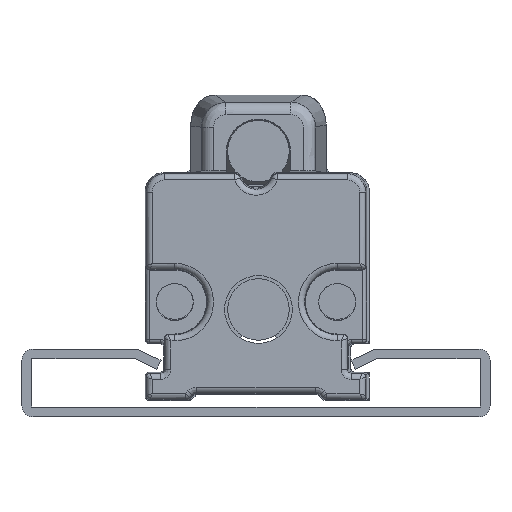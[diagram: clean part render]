
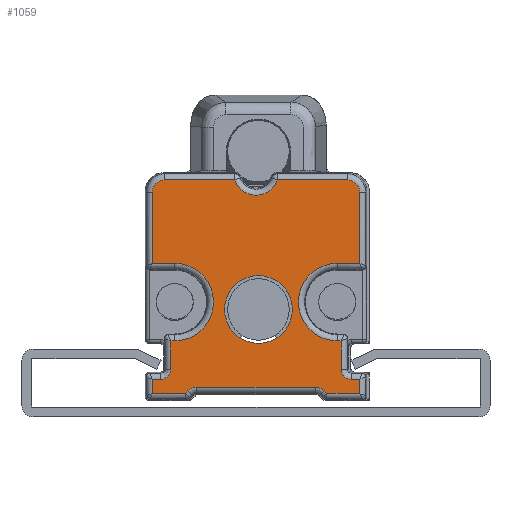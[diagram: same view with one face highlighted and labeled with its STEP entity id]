
A CAD part, front view. The second image highlights one B-rep face of the part: STEP entity #1059.
In plain terms, the highlighted planar face has unit normal (0, -1, 0).
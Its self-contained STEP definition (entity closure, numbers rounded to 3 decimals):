
#1059=ADVANCED_FACE('',(#4343,#4344),#1692,.T.);
#1692=PLANE('',#11957);
#2022=B_SPLINE_CURVE_WITH_KNOTS('',3,(#16871,#16872,#16873,#16874),
 .UNSPECIFIED.,.F.,.F.,(4,4),(0.,1.),.UNSPECIFIED.);
#2023=B_SPLINE_CURVE_WITH_KNOTS('',3,(#16882,#16883,#16884,#16885),
 .UNSPECIFIED.,.F.,.F.,(4,4),(0.,1.),.UNSPECIFIED.);
#2121=ELLIPSE('',#11952,0.8,0.8);
#2122=ELLIPSE('',#11953,1.,1.);
#2123=ELLIPSE('',#11954,1.,1.);
#2124=ELLIPSE('',#11955,0.8,0.8);
#2327=LINE('',#16868,#3390);
#2328=LINE('',#16876,#3391);
#2329=LINE('',#16880,#3392);
#2330=LINE('',#16887,#3393);
#2331=LINE('',#16889,#3394);
#2332=LINE('',#16893,#3395);
#2333=LINE('',#16895,#3396);
#2334=LINE('',#16899,#3397);
#2335=LINE('',#16901,#3398);
#2336=LINE('',#16903,#3399);
#2337=LINE('',#16905,#3400);
#2338=LINE('',#16909,#3401);
#2339=LINE('',#16913,#3402);
#2340=LINE('',#16915,#3403);
#2341=LINE('',#16917,#3404);
#2342=LINE('',#16919,#3405);
#2343=LINE('',#16923,#3406);
#2344=LINE('',#16925,#3407);
#2345=LINE('',#16929,#3408);
#3390=VECTOR('',#13289,1.);
#3391=VECTOR('',#13290,1.);
#3392=VECTOR('',#13293,1.);
#3393=VECTOR('',#13294,1.);
#3394=VECTOR('',#13295,1.);
#3395=VECTOR('',#13298,1.);
#3396=VECTOR('',#13299,1.);
#3397=VECTOR('',#13302,1.);
#3398=VECTOR('',#13303,1.);
#3399=VECTOR('',#13304,1.);
#3400=VECTOR('',#13305,1.);
#3401=VECTOR('',#13308,1.);
#3402=VECTOR('',#13311,1.);
#3403=VECTOR('',#13312,1.);
#3404=VECTOR('',#13313,1.);
#3405=VECTOR('',#13314,1.);
#3406=VECTOR('',#13317,1.);
#3407=VECTOR('',#13318,1.);
#3408=VECTOR('',#13321,1.);
#4343=FACE_BOUND('',#4493,.T.);
#4344=FACE_BOUND('',#4494,.T.);
#4493=EDGE_LOOP('',(#5399));
#4494=EDGE_LOOP('',(#5400,#5401,#5402,#5403,#5404,#5405,#5406,#5407,#5408,
#5409,#5410,#5411,#5412,#5413,#5414,#5415,#5416,#5417,#5418,#5419,#5420,
#5421,#5422,#5423,#5424,#5425,#5426,#5427));
#5399=ORIENTED_EDGE('',*,*,#9914,.F.);
#5400=ORIENTED_EDGE('',*,*,#9915,.T.);
#5401=ORIENTED_EDGE('',*,*,#9916,.T.);
#5402=ORIENTED_EDGE('',*,*,#9917,.T.);
#5403=ORIENTED_EDGE('',*,*,#9918,.T.);
#5404=ORIENTED_EDGE('',*,*,#9919,.T.);
#5405=ORIENTED_EDGE('',*,*,#9920,.T.);
#5406=ORIENTED_EDGE('',*,*,#9921,.T.);
#5407=ORIENTED_EDGE('',*,*,#9922,.T.);
#5408=ORIENTED_EDGE('',*,*,#9923,.T.);
#5409=ORIENTED_EDGE('',*,*,#9924,.T.);
#5410=ORIENTED_EDGE('',*,*,#9925,.T.);
#5411=ORIENTED_EDGE('',*,*,#9926,.T.);
#5412=ORIENTED_EDGE('',*,*,#9927,.T.);
#5413=ORIENTED_EDGE('',*,*,#9928,.T.);
#5414=ORIENTED_EDGE('',*,*,#9929,.T.);
#5415=ORIENTED_EDGE('',*,*,#9930,.T.);
#5416=ORIENTED_EDGE('',*,*,#9931,.T.);
#5417=ORIENTED_EDGE('',*,*,#9932,.T.);
#5418=ORIENTED_EDGE('',*,*,#9933,.T.);
#5419=ORIENTED_EDGE('',*,*,#9934,.T.);
#5420=ORIENTED_EDGE('',*,*,#9935,.T.);
#5421=ORIENTED_EDGE('',*,*,#9936,.T.);
#5422=ORIENTED_EDGE('',*,*,#9937,.T.);
#5423=ORIENTED_EDGE('',*,*,#9938,.T.);
#5424=ORIENTED_EDGE('',*,*,#9939,.T.);
#5425=ORIENTED_EDGE('',*,*,#9940,.T.);
#5426=ORIENTED_EDGE('',*,*,#9941,.T.);
#5427=ORIENTED_EDGE('',*,*,#9942,.T.);
#8769=VERTEX_POINT('',#16867);
#8770=VERTEX_POINT('',#16869);
#8771=VERTEX_POINT('',#16870);
#8772=VERTEX_POINT('',#16875);
#8773=VERTEX_POINT('',#16877);
#8774=VERTEX_POINT('',#16879);
#8775=VERTEX_POINT('',#16881);
#8776=VERTEX_POINT('',#16886);
#8777=VERTEX_POINT('',#16888);
#8778=VERTEX_POINT('',#16890);
#8779=VERTEX_POINT('',#16892);
#8780=VERTEX_POINT('',#16894);
#8781=VERTEX_POINT('',#16896);
#8782=VERTEX_POINT('',#16898);
#8783=VERTEX_POINT('',#16900);
#8784=VERTEX_POINT('',#16902);
#8785=VERTEX_POINT('',#16904);
#8786=VERTEX_POINT('',#16906);
#8787=VERTEX_POINT('',#16908);
#8788=VERTEX_POINT('',#16910);
#8789=VERTEX_POINT('',#16912);
#8790=VERTEX_POINT('',#16914);
#8791=VERTEX_POINT('',#16916);
#8792=VERTEX_POINT('',#16918);
#8793=VERTEX_POINT('',#16920);
#8794=VERTEX_POINT('',#16922);
#8795=VERTEX_POINT('',#16924);
#8796=VERTEX_POINT('',#16926);
#8797=VERTEX_POINT('',#16928);
#9914=EDGE_CURVE('',#8769,#8769,#11469,.T.);
#9915=EDGE_CURVE('',#8770,#8771,#2327,.T.);
#9916=EDGE_CURVE('',#8771,#8772,#2022,.T.);
#9917=EDGE_CURVE('',#8772,#8773,#2328,.T.);
#9918=EDGE_CURVE('',#8773,#8774,#11470,.T.);
#9919=EDGE_CURVE('',#8774,#8775,#2329,.T.);
#9920=EDGE_CURVE('',#8775,#8776,#2023,.T.);
#9921=EDGE_CURVE('',#8776,#8777,#2330,.T.);
#9922=EDGE_CURVE('',#8777,#8778,#2331,.T.);
#9923=EDGE_CURVE('',#8778,#8779,#11471,.T.);
#9924=EDGE_CURVE('',#8779,#8780,#2332,.T.);
#9925=EDGE_CURVE('',#8780,#8781,#2333,.T.);
#9926=EDGE_CURVE('',#8781,#8782,#2121,.T.);
#9927=EDGE_CURVE('',#8782,#8783,#2334,.T.);
#9928=EDGE_CURVE('',#8783,#8784,#2335,.T.);
#9929=EDGE_CURVE('',#8784,#8785,#2336,.T.);
#9930=EDGE_CURVE('',#8785,#8786,#2337,.T.);
#9931=EDGE_CURVE('',#8786,#8787,#2122,.T.);
#9932=EDGE_CURVE('',#8787,#8788,#2338,.T.);
#9933=EDGE_CURVE('',#8788,#8789,#2123,.T.);
#9934=EDGE_CURVE('',#8789,#8790,#2339,.T.);
#9935=EDGE_CURVE('',#8790,#8791,#2340,.T.);
#9936=EDGE_CURVE('',#8791,#8792,#2341,.T.);
#9937=EDGE_CURVE('',#8792,#8793,#2342,.T.);
#9938=EDGE_CURVE('',#8793,#8794,#2124,.T.);
#9939=EDGE_CURVE('',#8794,#8795,#2343,.T.);
#9940=EDGE_CURVE('',#8795,#8796,#2344,.T.);
#9941=EDGE_CURVE('',#8796,#8797,#11472,.T.);
#9942=EDGE_CURVE('',#8797,#8770,#2345,.T.);
#11469=CIRCLE('',#11949,2.75);
#11470=CIRCLE('',#11950,1.829);
#11471=CIRCLE('',#11951,3.148);
#11472=CIRCLE('',#11956,3.148);
#11949=AXIS2_PLACEMENT_3D('',#16866,#13287,#13288);
#11950=AXIS2_PLACEMENT_3D('',#16878,#13291,#13292);
#11951=AXIS2_PLACEMENT_3D('',#16891,#13296,#13297);
#11952=AXIS2_PLACEMENT_3D('',#16897,#13300,#13301);
#11953=AXIS2_PLACEMENT_3D('',#16907,#13306,#13307);
#11954=AXIS2_PLACEMENT_3D('',#16911,#13309,#13310);
#11955=AXIS2_PLACEMENT_3D('',#16921,#13315,#13316);
#11956=AXIS2_PLACEMENT_3D('',#16927,#13319,#13320);
#11957=AXIS2_PLACEMENT_3D('',#16930,#13322,#13323);
#13287=DIRECTION('',(0.,-1.,0.));
#13288=DIRECTION('',(0.,0.,-1.));
#13289=DIRECTION('',(0.,0.,1.));
#13290=DIRECTION('',(-1.,0.,0.));
#13291=DIRECTION('',(0.,1.,0.));
#13292=DIRECTION('',(0.,0.,-1.));
#13293=DIRECTION('',(-1.,0.,0.));
#13294=DIRECTION('',(0.,0.,-1.));
#13295=DIRECTION('',(1.,0.,0.));
#13296=DIRECTION('',(0.,1.,0.));
#13297=DIRECTION('',(0.,0.,-1.));
#13298=DIRECTION('',(-1.,0.,0.));
#13299=DIRECTION('',(0.,0.,-1.));
#13300=DIRECTION('',(0.,1.,0.));
#13301=DIRECTION('',(-0.707,0.,0.707));
#13302=DIRECTION('',(-1.,0.,0.));
#13303=DIRECTION('',(0.,0.,-1.));
#13304=DIRECTION('',(1.,0.,0.));
#13305=DIRECTION('',(0.707,0.,0.707));
#13306=DIRECTION('',(0.,1.,0.));
#13307=DIRECTION('',(0.383,0.,-0.924));
#13308=DIRECTION('',(1.,0.,0.));
#13309=DIRECTION('',(0.,1.,0.));
#13310=DIRECTION('',(-0.383,0.,-0.924));
#13311=DIRECTION('',(0.707,0.,-0.707));
#13312=DIRECTION('',(1.,0.,0.));
#13313=DIRECTION('',(0.,0.,1.));
#13314=DIRECTION('',(-1.,0.,0.));
#13315=DIRECTION('',(0.,1.,0.));
#13316=DIRECTION('',(0.707,0.,0.707));
#13317=DIRECTION('',(0.,0.,1.));
#13318=DIRECTION('',(-1.,0.,0.));
#13319=DIRECTION('',(0.,1.,0.));
#13320=DIRECTION('',(0.,0.,-1.));
#13321=DIRECTION('',(1.,0.,0.));
#13322=DIRECTION('',(0.,-1.,0.));
#13323=DIRECTION('',(-1.,0.,0.));
#16866=CARTESIAN_POINT('',(100.,13.7,106.9));
#16867=CARTESIAN_POINT('',(100.,13.7,104.15));
#16868=CARTESIAN_POINT('',(108.221,13.7,116.75));
#16869=CARTESIAN_POINT('',(108.221,13.7,110.648));
#16870=CARTESIAN_POINT('',(108.221,13.7,116.422));
#16871=CARTESIAN_POINT('',(108.221,13.7,116.422));
#16872=CARTESIAN_POINT('',(108.221,13.7,116.951));
#16873=CARTESIAN_POINT('',(107.753,13.7,117.421));
#16874=CARTESIAN_POINT('',(107.221,13.7,117.421));
#16875=CARTESIAN_POINT('',(107.221,13.7,117.421));
#16876=CARTESIAN_POINT('',(107.55,13.7,117.421));
#16877=CARTESIAN_POINT('',(101.535,13.7,117.421));
#16878=CARTESIAN_POINT('',(99.8,13.7,118.));
#16879=CARTESIAN_POINT('',(98.065,13.7,117.421));
#16880=CARTESIAN_POINT('',(107.55,13.7,117.421));
#16881=CARTESIAN_POINT('',(92.378,13.7,117.421));
#16882=CARTESIAN_POINT('',(92.378,13.7,117.421));
#16883=CARTESIAN_POINT('',(91.849,13.7,117.421));
#16884=CARTESIAN_POINT('',(91.379,13.7,116.953));
#16885=CARTESIAN_POINT('',(91.379,13.7,116.422));
#16886=CARTESIAN_POINT('',(91.379,13.7,116.422));
#16887=CARTESIAN_POINT('',(91.379,13.7,116.75));
#16888=CARTESIAN_POINT('',(91.379,13.7,110.648));
#16889=CARTESIAN_POINT('',(93.2,13.7,110.648));
#16890=CARTESIAN_POINT('',(93.2,13.7,110.648));
#16891=CARTESIAN_POINT('',(93.2,13.7,107.5));
#16892=CARTESIAN_POINT('',(93.2,13.7,104.352));
#16893=CARTESIAN_POINT('',(92.687,13.7,104.352));
#16894=CARTESIAN_POINT('',(92.879,13.7,104.352));
#16895=CARTESIAN_POINT('',(92.879,13.7,116.75));
#16896=CARTESIAN_POINT('',(92.879,13.7,102.021));
#16897=CARTESIAN_POINT('',(92.078,13.7,102.021));
#16898=CARTESIAN_POINT('',(92.079,13.7,101.221));
#16899=CARTESIAN_POINT('',(107.55,13.7,101.221));
#16900=CARTESIAN_POINT('',(91.379,13.7,101.221));
#16901=CARTESIAN_POINT('',(91.379,13.7,116.75));
#16902=CARTESIAN_POINT('',(91.379,13.7,100.079));
#16903=CARTESIAN_POINT('',(107.55,13.7,100.079));
#16904=CARTESIAN_POINT('',(94.06,13.7,100.079));
#16905=CARTESIAN_POINT('',(109.141,13.7,115.159));
#16906=CARTESIAN_POINT('',(94.267,13.7,100.286));
#16907=CARTESIAN_POINT('',(94.975,13.7,99.578));
#16908=CARTESIAN_POINT('',(94.974,13.7,100.579));
#16909=CARTESIAN_POINT('',(107.55,13.7,100.579));
#16910=CARTESIAN_POINT('',(104.628,13.7,100.579));
#16911=CARTESIAN_POINT('',(104.628,13.7,99.578));
#16912=CARTESIAN_POINT('',(105.335,13.7,100.286));
#16913=CARTESIAN_POINT('',(98.21,13.7,107.41));
#16914=CARTESIAN_POINT('',(105.542,13.7,100.079));
#16915=CARTESIAN_POINT('',(107.55,13.7,100.079));
#16916=CARTESIAN_POINT('',(108.221,13.7,100.079));
#16917=CARTESIAN_POINT('',(108.221,13.7,116.75));
#16918=CARTESIAN_POINT('',(108.221,13.7,101.221));
#16919=CARTESIAN_POINT('',(107.55,13.7,101.221));
#16920=CARTESIAN_POINT('',(107.521,13.7,101.221));
#16921=CARTESIAN_POINT('',(107.521,13.7,102.021));
#16922=CARTESIAN_POINT('',(106.721,13.7,102.021));
#16923=CARTESIAN_POINT('',(106.721,13.7,116.75));
#16924=CARTESIAN_POINT('',(106.721,13.7,104.352));
#16925=CARTESIAN_POINT('',(106.4,13.7,104.352));
#16926=CARTESIAN_POINT('',(106.4,13.7,104.352));
#16927=CARTESIAN_POINT('',(106.4,13.7,107.5));
#16928=CARTESIAN_POINT('',(106.4,13.7,110.648));
#16929=CARTESIAN_POINT('',(108.413,13.7,110.648));
#16930=CARTESIAN_POINT('',(107.55,13.7,116.75));
